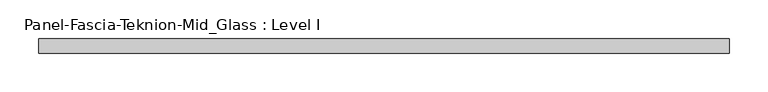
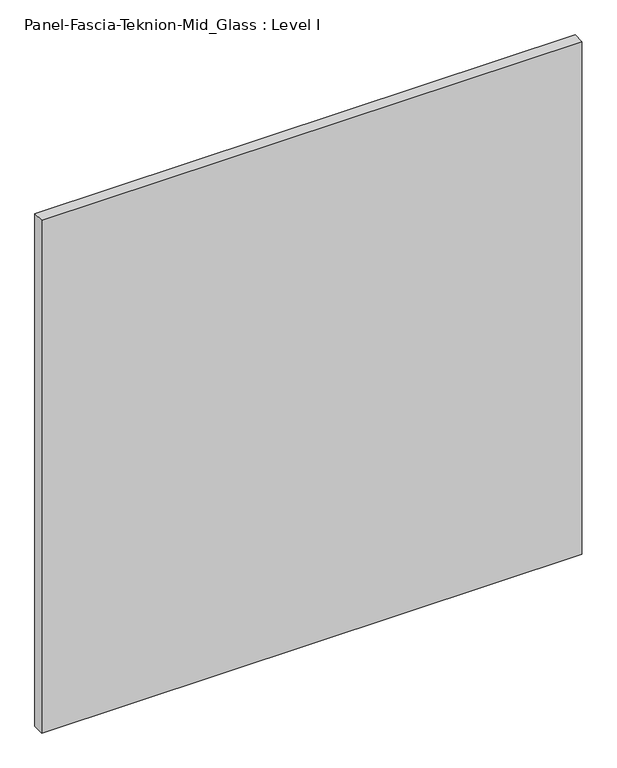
"""IFC4 building model written with IfcOpenShell, lengths in millimetres: proxy geometry, Panel-Fascia-Teknion-Mid_Glass : Level I."""

from ifc_helpers import new_model, si_unit, frame, origin, place, context, project, spatial, polyline, outline, extrude, source, transform, mapped, element, save


def panel_fascia_teknion_mid_glass_level_i_3173a81b(model_context):
    return source(origin(), model_context, "Body", "SweptSolid", [
        extrude(outline(polyline([(447.6253906, -9.525), (-447.6253906, -9.525), (-447.6253906, 9.525), (447.6253906, 9.525), (447.6253906, -9.525)])), frame((0.0, 0.0, 3.175), z_axis=(0.0, 0.0, 1.0), x_axis=(1.0, 0.0, 0.0)), (0.0, 0.0, 1.0), 898.525),
    ])


if __name__ == "__main__":
    model = new_model("IFC4")
    model_context = context("Model", 3, world=origin())
    ifc_project = project(units=[si_unit("LENGTHUNIT", "METRE", prefix="MILLI")], contexts=[model_context])
    site = spatial("IfcSite", under=ifc_project)
    building = spatial("IfcBuilding", under=site)
    placement = place(None, origin())
    panel_fascia_teknion_mid_glass_level_i_shape = panel_fascia_teknion_mid_glass_level_i_3173a81b(model_context)
    element("IfcBuildingElementProxy", 1, Name="Panel-Fascia-Teknion-Mid_Glass : Level I", ObjectType="Panel-Fascia-Teknion-Mid_Glass : Level I", at=placement, inside=building, context=model_context, shape_type="MappedRepresentation", body=[
        mapped(panel_fascia_teknion_mid_glass_level_i_shape, transform((0.0, 0.0, 0.0), x_axis=(1.0, 0.0, 0.0), y_axis=(0.0, 1.0, 0.0), z_axis=(0.0, 0.0, 1.0))),
    ])
    save(model, "model.ifc")
